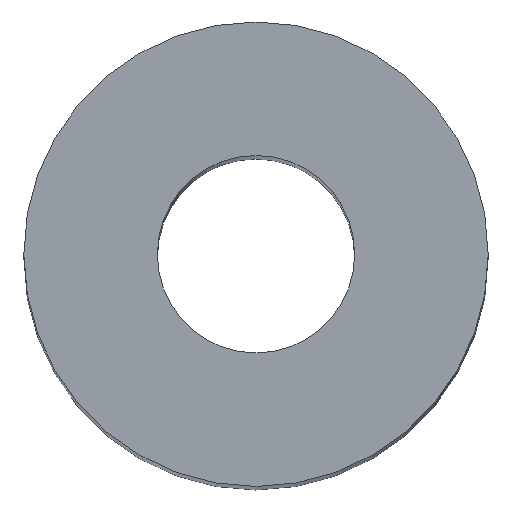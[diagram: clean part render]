
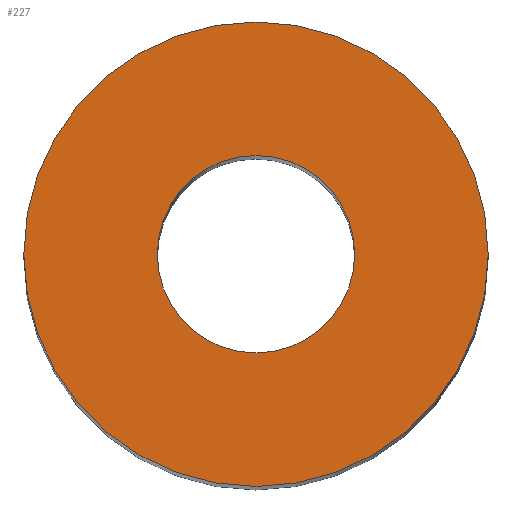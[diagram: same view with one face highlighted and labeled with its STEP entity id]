
A CAD part, top view. The second image highlights one B-rep face of the part: STEP entity #227.
In plain terms, the highlighted planar face has unit normal (0, 0, 1).
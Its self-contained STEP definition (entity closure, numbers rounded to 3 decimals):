
#1 = CARTESIAN_POINT ( 'NONE',  ( 0., 0., 35. ) ) ;
#4 = CIRCLE ( 'NONE', #161, 1.7 ) ;
#11 = CIRCLE ( 'NONE', #147, 4. ) ;
#21 = VERTEX_POINT ( 'NONE', #130 ) ;
#23 = DIRECTION ( 'NONE',  ( 0., 0., 1. ) ) ;
#24 = ORIENTED_EDGE ( 'NONE', *, *, #36, .F. ) ;
#27 = DIRECTION ( 'NONE',  ( 0., 0., 1. ) ) ;
#28 = ORIENTED_EDGE ( 'NONE', *, *, #95, .T. ) ;
#30 = DIRECTION ( 'NONE',  ( 1., 0., 0. ) ) ;
#32 = CARTESIAN_POINT ( 'NONE',  ( 0., 0., 35. ) ) ;
#34 = DIRECTION ( 'NONE',  ( 1., 0., 0. ) ) ;
#36 = EDGE_CURVE ( 'NONE', #71, #142, #4, .T. ) ;
#48 = AXIS2_PLACEMENT_3D ( 'NONE', #1, #73, #118 ) ;
#64 = CARTESIAN_POINT ( 'NONE',  ( 0., 0., 35. ) ) ;
#68 = CARTESIAN_POINT ( 'NONE',  ( 1.7, 0., 35. ) ) ;
#71 = VERTEX_POINT ( 'NONE', #109 ) ;
#73 = DIRECTION ( 'NONE',  ( 0., 0., 1. ) ) ;
#78 = EDGE_LOOP ( 'NONE', ( #24, #245 ) ) ;
#95 = EDGE_CURVE ( 'NONE', #21, #237, #11, .T. ) ;
#98 = PLANE ( 'NONE',  #48 ) ;
#102 = CARTESIAN_POINT ( 'NONE',  ( 0., 0., 35. ) ) ;
#109 = CARTESIAN_POINT ( 'NONE',  ( -1.7, 0., 35. ) ) ;
#118 = DIRECTION ( 'NONE',  ( 1., 0., 0. ) ) ;
#126 = AXIS2_PLACEMENT_3D ( 'NONE', #64, #148, #221 ) ;
#130 = CARTESIAN_POINT ( 'NONE',  ( 4., 0., 35. ) ) ;
#139 = FACE_OUTER_BOUND ( 'NONE', #233, .T. ) ;
#141 = CARTESIAN_POINT ( 'NONE',  ( -4., 0., 35. ) ) ;
#142 = VERTEX_POINT ( 'NONE', #68 ) ;
#147 = AXIS2_PLACEMENT_3D ( 'NONE', #32, #203, #30 ) ;
#148 = DIRECTION ( 'NONE',  ( 0., 0., 1. ) ) ;
#159 = AXIS2_PLACEMENT_3D ( 'NONE', #102, #23, #34 ) ;
#161 = AXIS2_PLACEMENT_3D ( 'NONE', #204, #27, #206 ) ;
#164 = EDGE_CURVE ( 'NONE', #237, #21, #208, .T. ) ;
#180 = EDGE_CURVE ( 'NONE', #142, #71, #192, .T. ) ;
#192 = CIRCLE ( 'NONE', #159, 1.7 ) ;
#203 = DIRECTION ( 'NONE',  ( 0., 0., 1. ) ) ;
#204 = CARTESIAN_POINT ( 'NONE',  ( 0., 0., 35. ) ) ;
#205 = ORIENTED_EDGE ( 'NONE', *, *, #164, .T. ) ;
#206 = DIRECTION ( 'NONE',  ( 1., 0., 0. ) ) ;
#208 = CIRCLE ( 'NONE', #126, 4. ) ;
#221 = DIRECTION ( 'NONE',  ( 1., 0., 0. ) ) ;
#227 = ADVANCED_FACE ( 'NONE', ( #139, #235 ), #98, .T. ) ;
#233 = EDGE_LOOP ( 'NONE', ( #205, #28 ) ) ;
#235 = FACE_BOUND ( 'NONE', #78, .T. ) ;
#237 = VERTEX_POINT ( 'NONE', #141 ) ;
#245 = ORIENTED_EDGE ( 'NONE', *, *, #180, .F. ) ;
